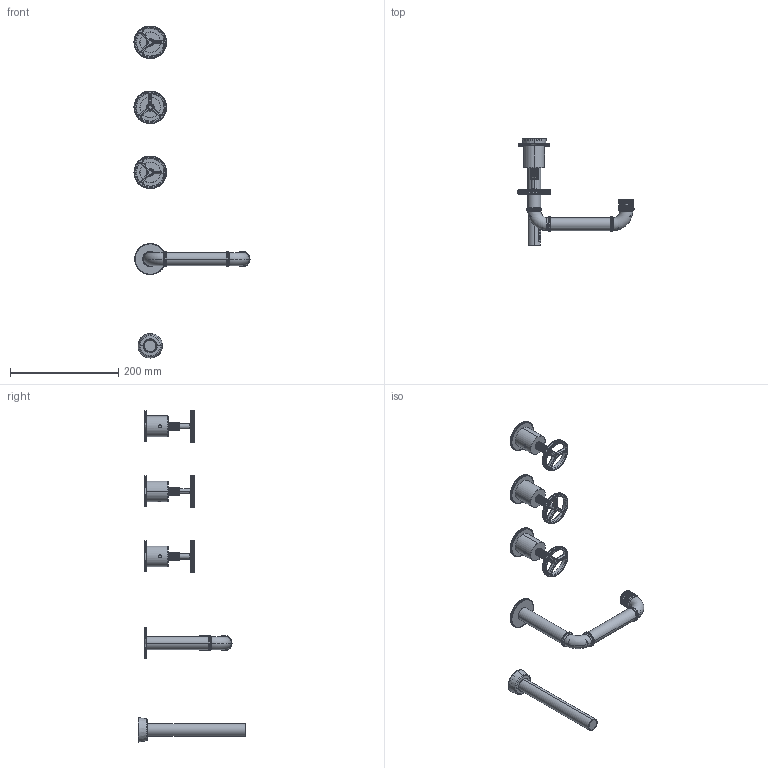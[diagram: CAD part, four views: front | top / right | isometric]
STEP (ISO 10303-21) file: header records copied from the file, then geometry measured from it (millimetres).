
FILE_DESCRIPTION (( 'STEP AP203' ), '1' );
FILE_NAME ('78138410 x architetti.STEP', '2023-10-05T06:43:43', ( '' ), ( '' ), 'SwSTEP 2.0', 'SolidWorks 2020', '' );
FILE_SCHEMA (( 'CONFIG_CONTROL_DESIGN' ));
Length unit declared in the file: millimetre
Products named in the file (1): 78138410 x architetti
Bounding box: 213.99 x 198.8 x 612.46 mm (x, y, z)
Volume: 469141.5 mm3; surface area: 113311.2 mm2
Topology: 6 solids, 19 shells, 5365 faces, 14510 edges, 9185 vertices
Faces by surface type: cylinder 3404, bspline 896, torus 881, cone 123, plane 61
Entity records: 266697 total; most frequent: CARTESIAN_POINT 142272, ORIENTED_EDGE 28920, DIRECTION 23389, EDGE_CURVE 14460, AXIS2_PLACEMENT_3D 9962, VERTEX_POINT 9185, CIRCLE 5492, EDGE_LOOP 5445
